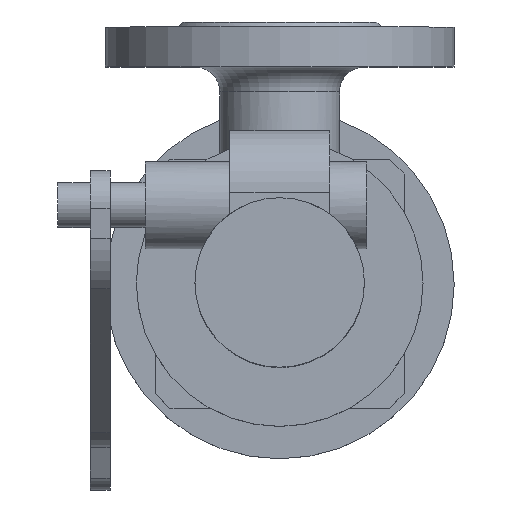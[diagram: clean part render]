
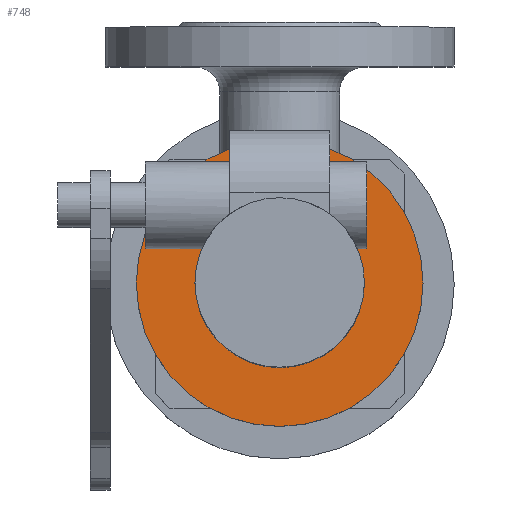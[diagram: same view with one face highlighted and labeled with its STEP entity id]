
A CAD part, top view. The second image highlights one B-rep face of the part: STEP entity #748.
In plain terms, the highlighted planar face has unit normal (0, 0, 1).
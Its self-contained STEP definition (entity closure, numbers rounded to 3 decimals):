
#748=ADVANCED_FACE('',(#1685,#1687),#1689,.T.);
#1685=FACE_BOUND('',#1686,.T.);
#1686=EDGE_LOOP('',(#2382));
#1687=FACE_BOUND('',#1688,.T.);
#1688=EDGE_LOOP('',(#2383));
#1689=PLANE('',#1690);
#1690=AXIS2_PLACEMENT_3D('',#1691,#1692,#1693);
#1691=CARTESIAN_POINT('',(0.,0.,306.));
#1692=DIRECTION('',(0.,0.,1.));
#1693=DIRECTION('',(0.,1.,0.));
#2382=ORIENTED_EDGE('',*,*,#2793,.F.);
#2383=ORIENTED_EDGE('',*,*,#2794,.T.);
#2793=EDGE_CURVE('',#3204,#3204,#3205,.T.);
#2794=EDGE_CURVE('',#3206,#3206,#3207,.T.);
#3204=VERTEX_POINT('',#5068);
#3205=CIRCLE('',#5069,57.5);
#3206=VERTEX_POINT('',#5073);
#3207=CIRCLE('',#5074,34.);
#5068=CARTESIAN_POINT('',(0.,57.5,306.));
#5069=AXIS2_PLACEMENT_3D('',#5070,#5071,#5072);
#5070=CARTESIAN_POINT('',(0.,0.,306.));
#5071=DIRECTION('',(0.,0.,-1.));
#5072=DIRECTION('',(0.,1.,0.));
#5073=CARTESIAN_POINT('',(0.,34.,306.));
#5074=AXIS2_PLACEMENT_3D('',#5075,#5076,#5077);
#5075=CARTESIAN_POINT('',(0.,0.,306.));
#5076=DIRECTION('',(0.,0.,-1.));
#5077=DIRECTION('',(0.,1.,0.));
